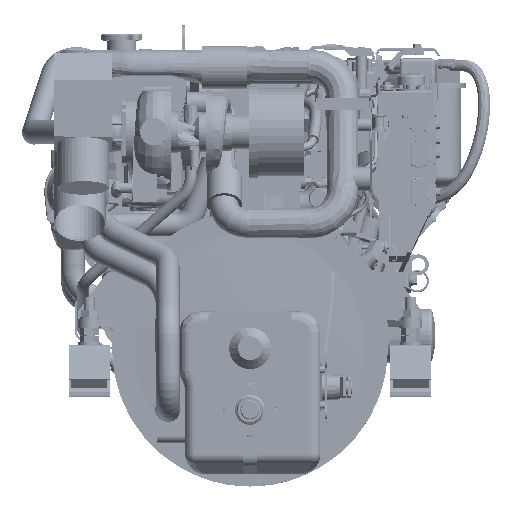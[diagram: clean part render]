
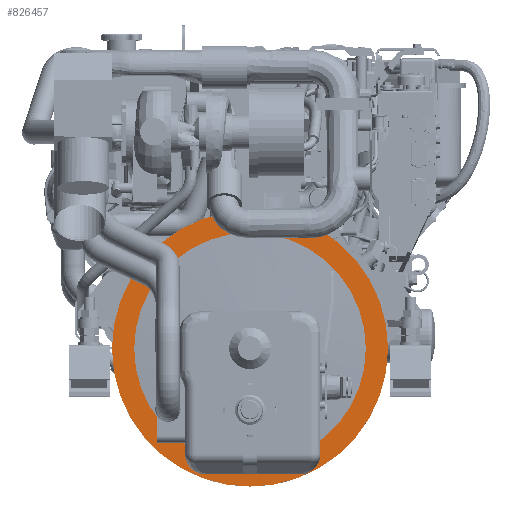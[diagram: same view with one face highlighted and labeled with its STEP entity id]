
A CAD part, top view. The second image highlights one B-rep face of the part: STEP entity #826457.
In plain terms, the highlighted planar face has unit normal (0, 0, 1).
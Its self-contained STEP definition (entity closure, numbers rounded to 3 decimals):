
#822249=CARTESIAN_POINT('',(0.,0.,167.5));
#822250=DIRECTION('',(0.,0.,-1.));
#822251=DIRECTION('',(0.,-1.,0.));
#822252=AXIS2_PLACEMENT_3D('',#822249,#822250,#822251);
#822254=CARTESIAN_POINT('',(0.,0.,167.5));
#822255=DIRECTION('',(0.,0.,-1.));
#822256=DIRECTION('',(0.,1.,0.));
#822257=AXIS2_PLACEMENT_3D('',#822254,#822255,#822256);
#822259=CARTESIAN_POINT('',(0.,0.,167.5));
#822260=DIRECTION('',(0.,0.,1.));
#822261=DIRECTION('',(0.,-1.,0.));
#822262=AXIS2_PLACEMENT_3D('',#822259,#822260,#822261);
#822264=CARTESIAN_POINT('',(0.,0.,167.5));
#822265=DIRECTION('',(0.,0.,1.));
#822266=DIRECTION('',(0.,1.,0.));
#822267=AXIS2_PLACEMENT_3D('',#822264,#822265,#822266);
#825613=CARTESIAN_POINT('',(0.,169.3,167.5));
#825614=VERTEX_POINT('',#825613);
#825615=CARTESIAN_POINT('',(0.,-169.3,167.5));
#825616=VERTEX_POINT('',#825615);
#826041=CARTESIAN_POINT('',(0.,-201.75,167.5));
#826042=CARTESIAN_POINT('',(0.,201.75,167.5));
#826043=VERTEX_POINT('',#826041);
#826044=VERTEX_POINT('',#826042);
#826442=CARTESIAN_POINT('',(0.,0.,167.5));
#826443=DIRECTION('',(0.,0.,1.));
#826444=DIRECTION('',(0.,1.,0.));
#826445=AXIS2_PLACEMENT_3D('',#826442,#826443,#826444);
#826446=PLANE('',#826445);
#826448=ORIENTED_EDGE('',*,*,#826447,.T.);
#826450=ORIENTED_EDGE('',*,*,#826449,.T.);
#826451=EDGE_LOOP('',(#826448,#826450));
#826452=FACE_OUTER_BOUND('',#826451,.F.);
#826453=ORIENTED_EDGE('',*,*,#826402,.T.);
#826454=ORIENTED_EDGE('',*,*,#826429,.T.);
#826455=EDGE_LOOP('',(#826453,#826454));
#826456=FACE_BOUND('',#826455,.F.);
#826457=ADVANCED_FACE('',(#826452,#826456),#826446,.T.);
#822253=CIRCLE('',#822252,201.75);
#822258=CIRCLE('',#822257,201.75);
#822263=CIRCLE('',#822262,169.3);
#822268=CIRCLE('',#822267,169.3);
#826402=EDGE_CURVE('',#825616,#825614,#822263,.T.);
#826429=EDGE_CURVE('',#825614,#825616,#822268,.T.);
#826447=EDGE_CURVE('',#826043,#826044,#822253,.T.);
#826449=EDGE_CURVE('',#826044,#826043,#822258,.T.);
